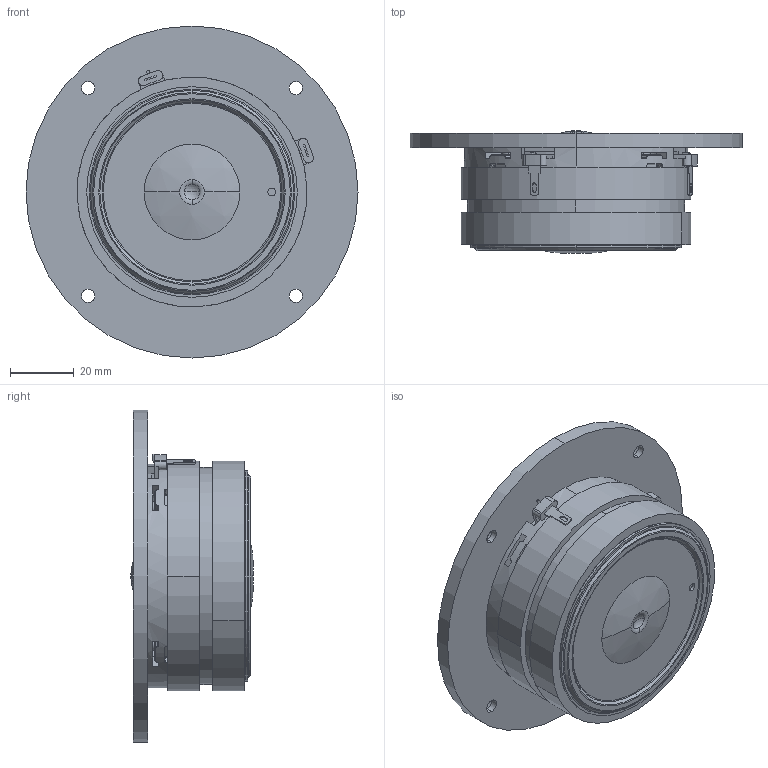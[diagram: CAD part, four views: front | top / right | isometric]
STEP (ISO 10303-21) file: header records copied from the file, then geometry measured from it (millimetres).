
FILE_DESCRIPTION (( 'STEP AP214' ), '1' );
FILE_NAME ('D2608-913000.STEP', '2020-10-22T05:54:28', ( '' ), ( '' ), 'SwSTEP 2.0', 'SolidWorks 2019', '' );
FILE_SCHEMA (( 'AUTOMOTIVE_DESIGN' ));
Length unit declared in the file: millimetre
Products named in the file (1): D2608-913000
Bounding box: 104 x 38.43 x 104 mm (x, y, z)
Volume: 150870.1 mm3; surface area: 39662.6 mm2
Topology: 4 solids, 11 shells, 416 faces, 1055 edges, 685 vertices
Faces by surface type: plane 181, cylinder 153, torus 32, cone 26, sphere 20, bspline 4
Entity records: 17628 total; most frequent: CARTESIAN_POINT 3021, DIRECTION 2231, ORIENTED_EDGE 2110, EDGE_CURVE 1055, AXIS2_PLACEMENT_3D 859, VERTEX_POINT 685, VECTOR 513, LINE 513
